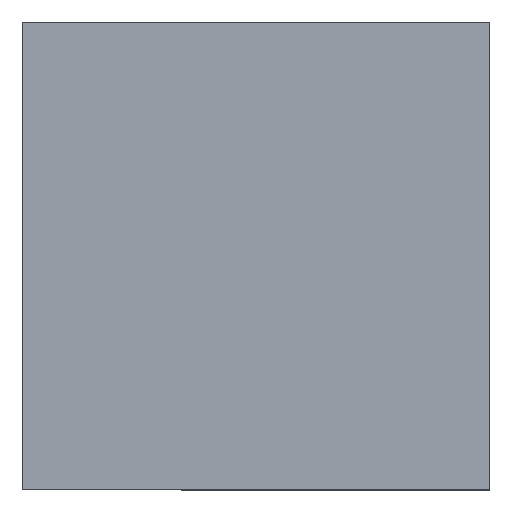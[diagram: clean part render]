
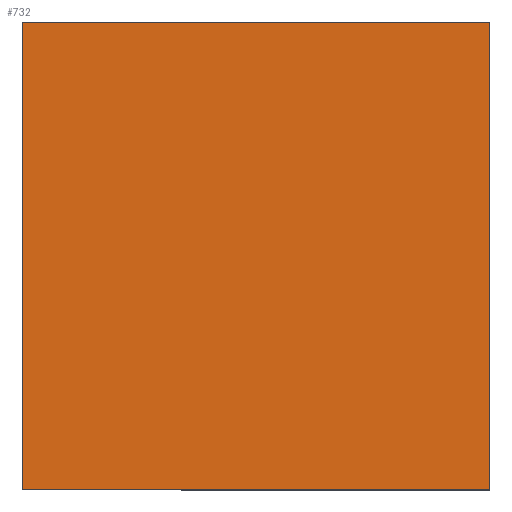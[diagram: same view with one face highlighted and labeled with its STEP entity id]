
A CAD part, top view. The second image highlights one B-rep face of the part: STEP entity #732.
In plain terms, the highlighted planar face has unit normal (0, 0, 1).
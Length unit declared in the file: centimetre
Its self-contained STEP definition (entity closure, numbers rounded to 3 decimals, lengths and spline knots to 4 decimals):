
#23 = VECTOR ( 'NONE', #476, 100. ) ;
#99 = AXIS2_PLACEMENT_3D ( 'NONE', #235, #617, #156 ) ;
#107 = EDGE_CURVE ( 'NONE', #982, #800, #927, .T. ) ;
#145 = CARTESIAN_POINT ( 'NONE',  ( 0., 0., 1000. ) ) ;
#156 = DIRECTION ( 'NONE',  ( 1., 0., 0. ) ) ;
#157 = DIRECTION ( 'NONE',  ( 1., 0., 0. ) ) ;
#167 = CARTESIAN_POINT ( 'NONE',  ( 0., 1000., 1000. ) ) ;
#189 = ORIENTED_EDGE ( 'NONE', *, *, #582, .T. ) ;
#235 = CARTESIAN_POINT ( 'NONE',  ( 0., 0., 1000. ) ) ;
#267 = CARTESIAN_POINT ( 'NONE',  ( 1000., 0., 1000. ) ) ;
#278 = EDGE_LOOP ( 'NONE', ( #380, #305, #189, #601 ) ) ;
#294 = LINE ( 'NONE', #986, #934 ) ;
#305 = ORIENTED_EDGE ( 'NONE', *, *, #107, .T. ) ;
#332 = CARTESIAN_POINT ( 'NONE',  ( 1000., 1000., 1000. ) ) ;
#345 = EDGE_CURVE ( 'NONE', #873, #982, #931, .T. ) ;
#367 = LINE ( 'NONE', #554, #23 ) ;
#380 = ORIENTED_EDGE ( 'NONE', *, *, #345, .T. ) ;
#382 = PLANE ( 'NONE',  #99 ) ;
#385 = EDGE_CURVE ( 'NONE', #534, #873, #367, .T. ) ;
#476 = DIRECTION ( 'NONE',  ( -1., 0., 0. ) ) ;
#509 = CARTESIAN_POINT ( 'NONE',  ( 0., 1000., 1000. ) ) ;
#518 = VECTOR ( 'NONE', #157, 100. ) ;
#523 = DIRECTION ( 'NONE',  ( 0., -1., 0. ) ) ;
#534 = VERTEX_POINT ( 'NONE', #332 ) ;
#554 = CARTESIAN_POINT ( 'NONE',  ( 0., 1000., 1000. ) ) ;
#582 = EDGE_CURVE ( 'NONE', #800, #534, #294, .T. ) ;
#601 = ORIENTED_EDGE ( 'NONE', *, *, #385, .T. ) ;
#617 = DIRECTION ( 'NONE',  ( 0., 0., 1. ) ) ;
#618 = CARTESIAN_POINT ( 'NONE',  ( 0., 0., 1000. ) ) ;
#674 = DIRECTION ( 'NONE',  ( 0., 1., 0. ) ) ;
#732 = ADVANCED_FACE ( 'NONE', ( #918 ), #382, .T. ) ;
#800 = VERTEX_POINT ( 'NONE', #267 ) ;
#873 = VERTEX_POINT ( 'NONE', #509 ) ;
#918 = FACE_OUTER_BOUND ( 'NONE', #278, .T. ) ;
#921 = VECTOR ( 'NONE', #523, 100. ) ;
#927 = LINE ( 'NONE', #618, #518 ) ;
#931 = LINE ( 'NONE', #167, #921 ) ;
#934 = VECTOR ( 'NONE', #674, 100. ) ;
#982 = VERTEX_POINT ( 'NONE', #145 ) ;
#986 = CARTESIAN_POINT ( 'NONE',  ( 1000., 1000., 1000. ) ) ;
